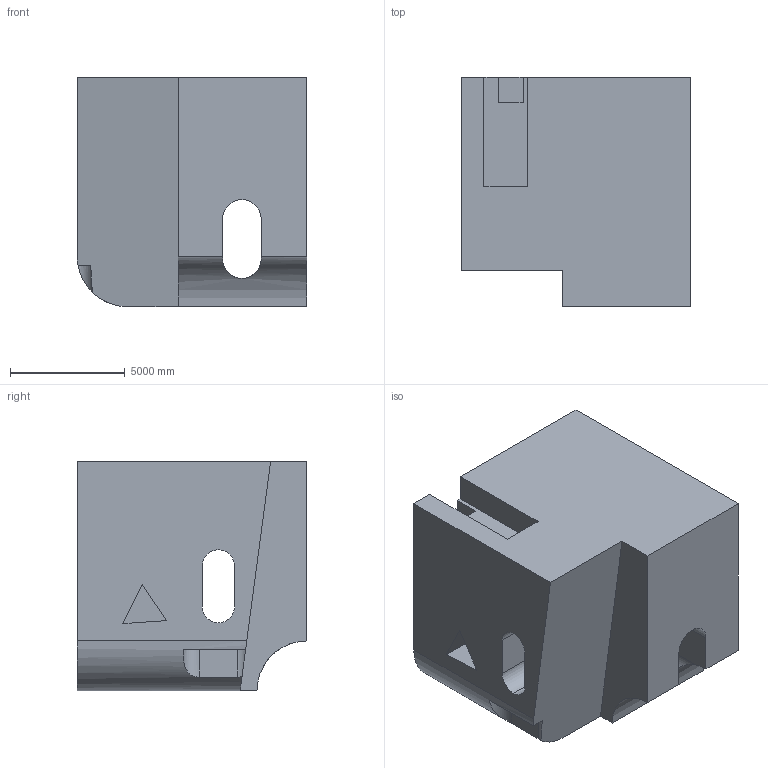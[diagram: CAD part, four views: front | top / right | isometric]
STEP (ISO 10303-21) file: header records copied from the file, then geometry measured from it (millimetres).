
FILE_DESCRIPTION (( 'STEP AP203' ), '1' );
FILE_NAME ('170.STEP', '2022-08-31T14:33:18', ( 'user' ), ( '' ), 'SwSTEP 2.0', 'SolidWorks 2021', '' );
FILE_SCHEMA (( 'CONFIG_CONTROL_DESIGN' ));
Length unit declared in the file: centimetre
Products named in the file (1): 170
Bounding box: 10000 x 10000 x 10000 mm (x, y, z)
Volume: 770813111941 mm3; surface area: 712985768.8 mm2
Topology: 1 solids, 1 shells, 40 faces, 120 edges, 80 vertices
Faces by surface type: plane 26, cylinder 14
Entity records: 1672 total; most frequent: CARTESIAN_POINT 489, ORIENTED_EDGE 240, DIRECTION 222, EDGE_CURVE 120, LINE 88, VECTOR 88, VERTEX_POINT 80, AXIS2_PLACEMENT_3D 67
